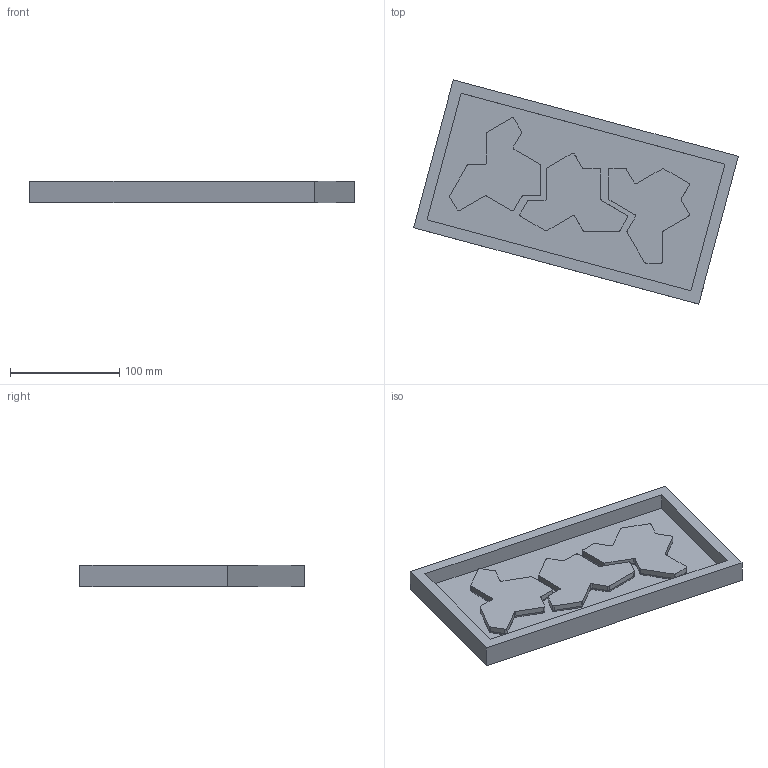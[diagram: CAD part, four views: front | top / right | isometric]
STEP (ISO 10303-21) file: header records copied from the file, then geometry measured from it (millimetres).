
FILE_DESCRIPTION(('FreeCAD Model'),'2;1');
FILE_NAME('Open CASCADE Shape Model','2026-04-24T16:18:21',(''),(''), 'Open CASCADE STEP processor 7.8','FreeCAD','Unknown');
FILE_SCHEMA(('AUTOMOTIVE_DESIGN { 1 0 10303 214 1 1 1 1 }'));
Length unit declared in the file: millimetre
Products named in the file (1): Fusion001
Bounding box: 297.03 x 205.11 x 20 mm (x, y, z)
Volume: 395345.4 mm3; surface area: 114413.1 mm2
Topology: 1 solids, 1 shells, 170 faces, 414 edges, 223 vertices
Faces by surface type: bspline 117, extrusion 39, plane 14
Entity records: 11918 total; most frequent: CARTESIAN_POINT 9439, ORIENTED_EDGE 774, EDGE_CURVE 387, B_SPLINE_CURVE_WITH_KNOTS 276, VERTEX_POINT 223, FACE_BOUND 174, EDGE_LOOP 174, ADVANCED_FACE 170
